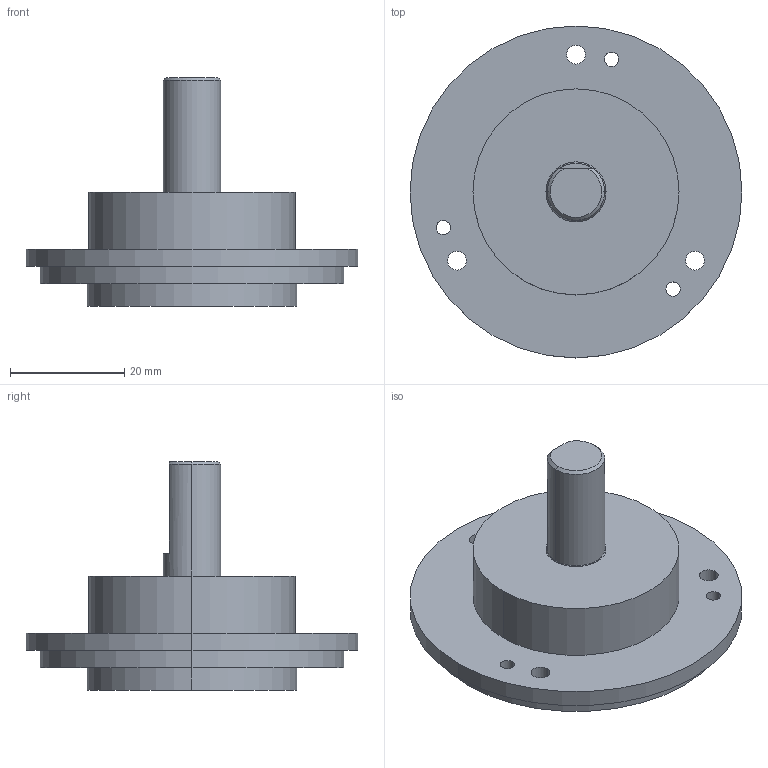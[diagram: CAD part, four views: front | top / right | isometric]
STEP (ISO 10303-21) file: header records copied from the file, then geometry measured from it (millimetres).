
FILE_DESCRIPTION (( 'STEP AP214' ), '1' );
FILE_NAME ('drawing-ucd-dacd-q3a-n.STEP', '2017-03-07T14:21:31', ( '' ), ( '' ), 'SwSTEP 2.0', 'SolidWorks 2015', '' );
FILE_SCHEMA (( 'AUTOMOTIVE_DESIGN' ));
Length unit declared in the file: millimetre
Products named in the file (1): drawing-ucd-dacd-q3a-n
Bounding box: 58 x 58 x 40 mm (x, y, z)
Volume: 27256.9 mm3; surface area: 16949.7 mm2
Topology: 14 solids, 14 shells, 229 faces, 544 edges, 328 vertices
Faces by surface type: bspline 77, cylinder 62, plane 53, cone 37
Entity records: 11832 total; most frequent: CARTESIAN_POINT 4257, ORIENTED_EDGE 1024, DIRECTION 959, EDGE_CURVE 512, AXIS2_PLACEMENT_3D 378, VERTEX_POINT 328, EDGE_LOOP 268, UNCERTAINTY_MEASURE_WITH_UNIT 244
